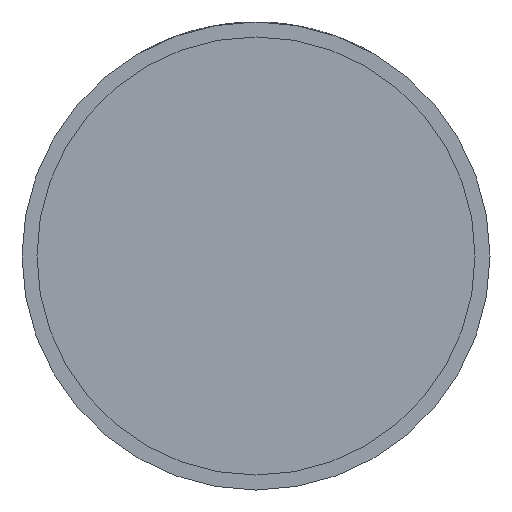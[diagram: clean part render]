
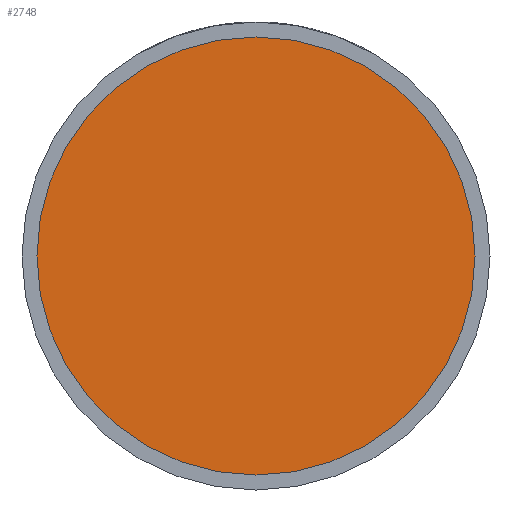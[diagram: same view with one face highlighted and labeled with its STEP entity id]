
A CAD part, front view. The second image highlights one B-rep face of the part: STEP entity #2748.
In plain terms, the highlighted planar face has unit normal (0, -1, 0).
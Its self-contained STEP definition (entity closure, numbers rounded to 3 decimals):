
#533 = AXIS2_PLACEMENT_3D ( 'NONE', #880, #3192, #1200 ) ;
#608 = CARTESIAN_POINT ( 'NONE',  ( 33.7, -20., 0. ) ) ;
#866 = PLANE ( 'NONE',  #2395 ) ;
#880 = CARTESIAN_POINT ( 'NONE',  ( 0., -20., 0. ) ) ;
#1039 = DIRECTION ( 'NONE',  ( 1., 0., 0. ) ) ;
#1200 = DIRECTION ( 'NONE',  ( 1., 0., 0. ) ) ;
#1332 = EDGE_CURVE ( 'NONE', #1780, #2570, #1470, .T. ) ;
#1361 = CARTESIAN_POINT ( 'NONE',  ( 0., -20., 0. ) ) ;
#1470 = CIRCLE ( 'NONE', #2933, 33.7 ) ;
#1610 = EDGE_CURVE ( 'NONE', #2570, #1780, #2473, .T. ) ;
#1780 = VERTEX_POINT ( 'NONE', #2303 ) ;
#1841 = FACE_OUTER_BOUND ( 'NONE', #2813, .T. ) ;
#2140 = ORIENTED_EDGE ( 'NONE', *, *, #1332, .T. ) ;
#2303 = CARTESIAN_POINT ( 'NONE',  ( -33.7, -20., 0. ) ) ;
#2335 = ORIENTED_EDGE ( 'NONE', *, *, #1610, .T. ) ;
#2395 = AXIS2_PLACEMENT_3D ( 'NONE', #608, #3201, #3163 ) ;
#2473 = CIRCLE ( 'NONE', #533, 33.7 ) ;
#2570 = VERTEX_POINT ( 'NONE', #3930 ) ;
#2748 = ADVANCED_FACE ( 'NONE', ( #1841 ), #866, .T. ) ;
#2813 = EDGE_LOOP ( 'NONE', ( #2335, #2140 ) ) ;
#2933 = AXIS2_PLACEMENT_3D ( 'NONE', #1361, #4022, #1039 ) ;
#3163 = DIRECTION ( 'NONE',  ( 1., 0., 0. ) ) ;
#3192 = DIRECTION ( 'NONE',  ( 0., -1., 0. ) ) ;
#3201 = DIRECTION ( 'NONE',  ( 0., -1., 0. ) ) ;
#3930 = CARTESIAN_POINT ( 'NONE',  ( 33.7, -20., 0. ) ) ;
#4022 = DIRECTION ( 'NONE',  ( 0., -1., 0. ) ) ;
